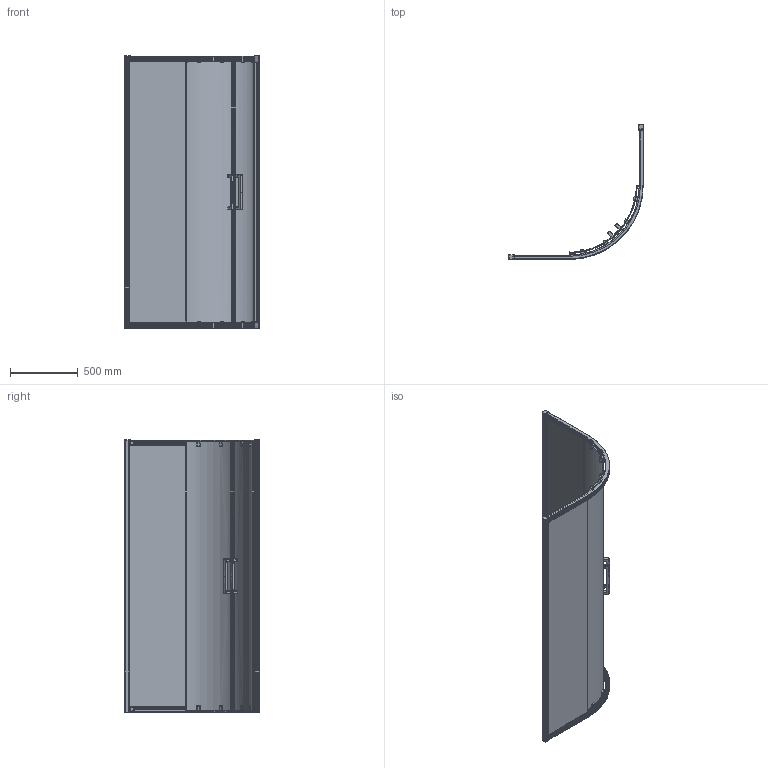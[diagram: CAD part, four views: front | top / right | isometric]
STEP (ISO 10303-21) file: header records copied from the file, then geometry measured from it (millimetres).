
FILE_DESCRIPTION(/* description */ (''),/* implementation_level */ '2;1');
FILE_NAME(/* name */ 'C:\4\! Кубеле\18 NEW\KÜBELE DE018R\KÜBELE DE018R-3D.stp',/* time_stamp */ '2019-06-20T15:49:40+03:00',/* author */ ('ChechurovS'),/* organization */ (''),/* preprocessor_version */ 'ST-DEVELOPER v15.2',/* originating_system */ 'Autodesk Inventor 2014',/* authorisation */ '');
FILE_SCHEMA (('CONFIG_CONTROL_DESIGN'));
Products named in the file (1): KÜBELE DE018R-3D
Bounding box: 994.9 x 994.9 x 2002.5 mm (x, y, z)
Volume: 27550916 mm3; surface area: 8364530.8 mm2
Topology: 1 solids, 1 shells, 3093 faces, 8786 edges, 5566 vertices
Faces by surface type: plane 1601, cylinder 877, bspline 199, torus 162, sphere 128, cone 126
Full cylindrical faces by diameter (mm): 3 x20, 4 x12, 5 x4, 10 x8
Entity records: 155251 total; most frequent: CARTESIAN_POINT 72239, ORIENTED_EDGE 17384, DIRECTION 16112, EDGE_CURVE 8662, VERTEX_POINT 5524, AXIS2_PLACEMENT_3D 5407, LINE 5298, VECTOR 5298
